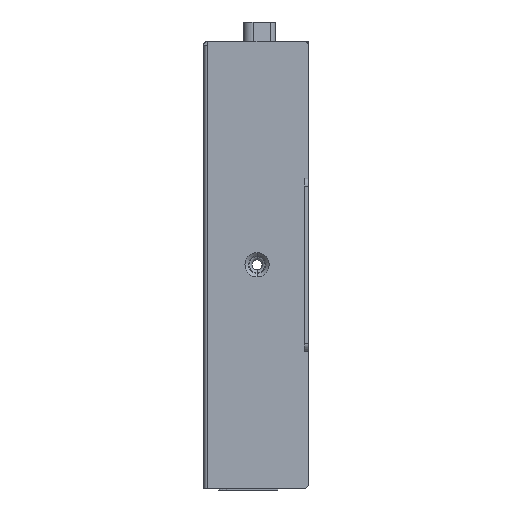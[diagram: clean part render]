
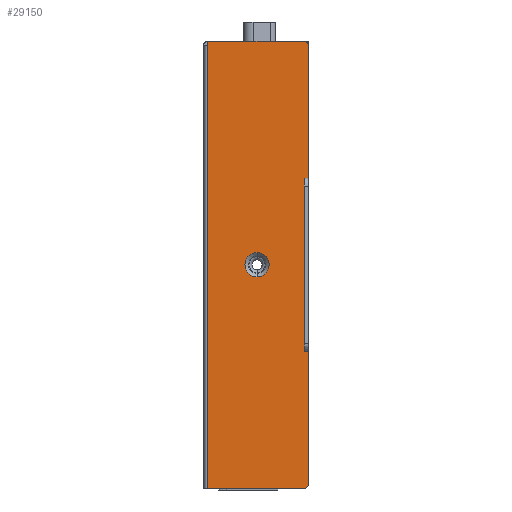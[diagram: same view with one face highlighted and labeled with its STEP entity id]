
A CAD part, left-side view. The second image highlights one B-rep face of the part: STEP entity #29150.
In plain terms, the highlighted planar face has unit normal (-1, 0, 0).
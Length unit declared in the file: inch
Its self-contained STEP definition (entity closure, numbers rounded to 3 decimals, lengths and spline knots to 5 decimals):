
#4332=DIRECTION('',(0.,-1.,0.));
#4333=VECTOR('',#4332,0.03937);
#4334=CARTESIAN_POINT('',(-1.51575,0.03937,
0.84646));
#4335=LINE('',#4334,#4333);
#4339=DIRECTION('',(0.,0.,1.));
#4340=VECTOR('',#4339,1.69291);
#4341=CARTESIAN_POINT('',(-1.51575,0.03937,
-0.84646));
#4342=LINE('',#4341,#4340);
#4346=DIRECTION('',(0.,1.,0.));
#4347=VECTOR('',#4346,0.03937);
#4348=CARTESIAN_POINT('',(-1.51575,0.,-0.84646));
#4349=LINE('',#4348,#4347);
#4353=DIRECTION('',(0.,0.,1.));
#4354=VECTOR('',#4353,1.29921);
#4355=CARTESIAN_POINT('',(-1.51575,0.,-2.14567));
#4356=LINE('',#4355,#4354);
#4360=CARTESIAN_POINT('',(-1.51575,0.03937,
-2.14567));
#4361=DIRECTION('',(-1.,0.,0.));
#4362=DIRECTION('',(0.,0.,-1.));
#4363=AXIS2_PLACEMENT_3D('',#4360,#4361,#4362);
#4368=DIRECTION('',(0.,-1.,0.));
#4369=VECTOR('',#4368,0.94488);
#4370=CARTESIAN_POINT('',(-1.51575,0.98425,
-2.18504));
#4371=LINE('',#4370,#4369);
#4375=DIRECTION('',(0.,0.,-1.));
#4376=VECTOR('',#4375,0.03937);
#4377=CARTESIAN_POINT('',(-1.51575,0.98425,
2.18504));
#4378=LINE('',#4377,#4376);
#4382=DIRECTION('',(0.,1.,0.));
#4383=VECTOR('',#4382,0.94488);
#4384=CARTESIAN_POINT('',(-1.51575,0.03937,
2.18504));
#4385=LINE('',#4384,#4383);
#4389=CARTESIAN_POINT('',(-1.51575,0.03937,
2.14567));
#4390=DIRECTION('',(-1.,0.,0.));
#4391=DIRECTION('',(0.,-1.,0.));
#4392=AXIS2_PLACEMENT_3D('',#4389,#4390,#4391);
#4397=DIRECTION('',(0.,0.,1.));
#4398=VECTOR('',#4397,1.29921);
#4399=CARTESIAN_POINT('',(-1.51575,0.,0.84646));
#4400=LINE('',#4399,#4398);
#4404=CARTESIAN_POINT('',(-1.51574,0.50197,0.));
#4405=DIRECTION('',(1.,0.,0.));
#4406=DIRECTION('',(0.,0.,1.));
#4407=AXIS2_PLACEMENT_3D('',#4404,#4405,#4406);
#4412=CARTESIAN_POINT('',(-1.51574,0.50197,0.));
#4413=DIRECTION('',(1.,0.,0.));
#4414=DIRECTION('',(0.,0.,-1.));
#4415=AXIS2_PLACEMENT_3D('',#4412,#4413,#4414);
#4855=DIRECTION('',(0.,0.,1.));
#4856=VECTOR('',#4855,4.33071);
#4857=CARTESIAN_POINT('',(-1.51575,0.98425,
-2.18504));
#4858=LINE('',#4857,#4856);
#25157=CARTESIAN_POINT('',(-1.51575,0.98425,
-2.18504));
#25158=VERTEX_POINT('',#25157);
#25199=CARTESIAN_POINT('',(-1.51575,0.98425,
2.14567));
#25200=VERTEX_POINT('',#25199);
#25231=CARTESIAN_POINT('',(-1.51574,0.50197,
-0.11812));
#25233=VERTEX_POINT('',#25231);
#25247=CARTESIAN_POINT('',(-1.51575,0.03937,
-2.18504));
#25248=VERTEX_POINT('',#25247);
#25261=CARTESIAN_POINT('',(-1.51575,0.98425,
2.18504));
#25262=VERTEX_POINT('',#25261);
#25283=CARTESIAN_POINT('',(-1.51575,0.03937,
0.84646));
#25284=CARTESIAN_POINT('',(-1.51575,0.,0.84646));
#25285=VERTEX_POINT('',#25283);
#25286=VERTEX_POINT('',#25284);
#25287=CARTESIAN_POINT('',(-1.51574,0.50197,
0.11812));
#25288=VERTEX_POINT('',#25287);
#25307=CARTESIAN_POINT('',(-1.51575,0.03937,
2.18504));
#25308=VERTEX_POINT('',#25307);
#25311=CARTESIAN_POINT('',(-1.51575,0.,-2.14567));
#25312=VERTEX_POINT('',#25311);
#25335=CARTESIAN_POINT('',(-1.51575,0.,2.14567));
#25336=VERTEX_POINT('',#25335);
#25337=CARTESIAN_POINT('',(-1.51575,0.03937,
-0.84646));
#25338=VERTEX_POINT('',#25337);
#25353=CARTESIAN_POINT('',(-1.51575,0.,-0.84646));
#25354=VERTEX_POINT('',#25353);
#29120=CARTESIAN_POINT('',(-1.51575,0.98425,
2.14567));
#29121=DIRECTION('',(1.,0.,0.));
#29122=DIRECTION('',(0.,0.,1.));
#29123=AXIS2_PLACEMENT_3D('',#29120,#29121,#29122);
#29124=PLANE('',#29123);
#29126=ORIENTED_EDGE('',*,*,#29125,.F.);
#29128=ORIENTED_EDGE('',*,*,#29127,.F.);
#29130=ORIENTED_EDGE('',*,*,#29129,.F.);
#29131=ORIENTED_EDGE('',*,*,#29113,.F.);
#29132=ORIENTED_EDGE('',*,*,#29101,.F.);
#29133=ORIENTED_EDGE('',*,*,#28494,.F.);
#29135=ORIENTED_EDGE('',*,*,#29134,.T.);
#29136=ORIENTED_EDGE('',*,*,#29037,.F.);
#29137=ORIENTED_EDGE('',*,*,#29054,.F.);
#29139=ORIENTED_EDGE('',*,*,#29138,.F.);
#29141=ORIENTED_EDGE('',*,*,#29140,.F.);
#29142=EDGE_LOOP('',(#29126,#29128,#29130,#29131,#29132,#29133,#29135,#29136,
#29137,#29139,#29141));
#29143=FACE_OUTER_BOUND('',#29142,.F.);
#29145=ORIENTED_EDGE('',*,*,#29144,.F.);
#29147=ORIENTED_EDGE('',*,*,#29146,.F.);
#29148=EDGE_LOOP('',(#29145,#29147));
#29149=FACE_BOUND('',#29148,.F.);
#4364=CIRCLE('',#4363,0.03937);
#4393=CIRCLE('',#4392,0.03937);
#4408=CIRCLE('',#4407,0.11812);
#4416=CIRCLE('',#4415,0.11812);
#28494=EDGE_CURVE('',#25158,#25248,#4371,.T.);
#29037=EDGE_CURVE('',#25262,#25200,#4378,.T.);
#29054=EDGE_CURVE('',#25308,#25262,#4385,.T.);
#29101=EDGE_CURVE('',#25248,#25312,#4364,.T.);
#29113=EDGE_CURVE('',#25312,#25354,#4356,.T.);
#29125=EDGE_CURVE('',#25285,#25286,#4335,.T.);
#29127=EDGE_CURVE('',#25338,#25285,#4342,.T.);
#29129=EDGE_CURVE('',#25354,#25338,#4349,.T.);
#29134=EDGE_CURVE('',#25158,#25200,#4858,.T.);
#29138=EDGE_CURVE('',#25336,#25308,#4393,.T.);
#29140=EDGE_CURVE('',#25286,#25336,#4400,.T.);
#29144=EDGE_CURVE('',#25288,#25233,#4408,.T.);
#29146=EDGE_CURVE('',#25233,#25288,#4416,.T.);
#29150=ADVANCED_FACE('',(#29143,#29149),#29124,.F.);
